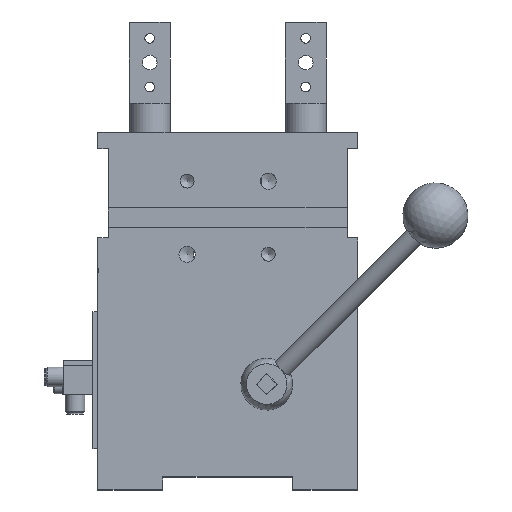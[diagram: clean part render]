
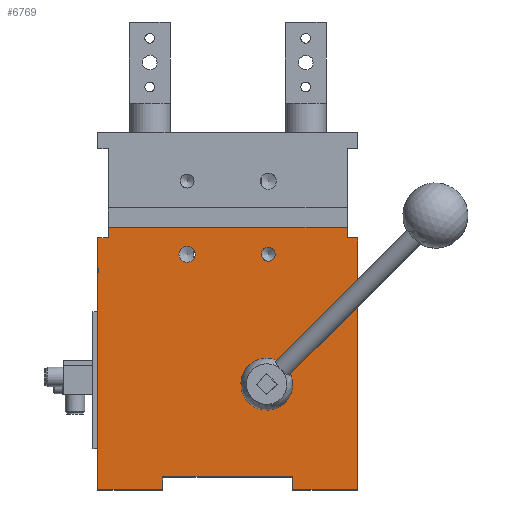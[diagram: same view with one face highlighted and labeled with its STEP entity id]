
A CAD part, top view. The second image highlights one B-rep face of the part: STEP entity #6769.
In plain terms, the highlighted planar face has unit normal (0, 0, 1).
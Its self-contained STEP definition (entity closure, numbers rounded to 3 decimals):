
#260=LINE('',#11653,#647);
#283=LINE('',#11698,#670);
#284=LINE('',#11700,#671);
#285=LINE('',#11702,#672);
#286=LINE('',#11704,#673);
#287=LINE('',#11706,#674);
#288=LINE('',#11708,#675);
#289=LINE('',#11710,#676);
#290=LINE('',#11712,#677);
#291=LINE('',#11714,#678);
#292=LINE('',#11716,#679);
#293=LINE('',#11717,#680);
#647=VECTOR('',#9049,147.);
#670=VECTOR('',#9088,6.5);
#671=VECTOR('',#9089,6.5);
#672=VECTOR('',#9090,155.);
#673=VECTOR('',#9091,40.);
#674=VECTOR('',#9092,8.);
#675=VECTOR('',#9093,80.);
#676=VECTOR('',#9094,8.);
#677=VECTOR('',#9095,40.);
#678=VECTOR('',#9096,155.);
#679=VECTOR('',#9097,6.5);
#680=VECTOR('',#9098,6.5);
#1158=PLANE('',#7514);
#1447=FACE_BOUND('',#2542,.T.);
#1448=FACE_BOUND('',#2543,.T.);
#1449=FACE_BOUND('',#2544,.T.);
#1878=FACE_OUTER_BOUND('',#2541,.T.);
#2541=EDGE_LOOP('',(#5619,#5620,#5621,#5622,#5623,#5624,#5625,#5626,#5627,
#5628,#5629,#5630));
#2542=EDGE_LOOP('',(#5631));
#2543=EDGE_LOOP('',(#5632));
#2544=EDGE_LOOP('',(#5633));
#3072=CIRCLE('',#7440,4.25);
#3073=CIRCLE('',#7442,5.);
#3074=CIRCLE('',#7444,6.);
#3561=VERTEX_POINT('',#11491);
#3562=VERTEX_POINT('',#11504);
#3563=VERTEX_POINT('',#11507);
#3603=VERTEX_POINT('',#11649);
#3605=VERTEX_POINT('',#11652);
#3619=VERTEX_POINT('',#11697);
#3620=VERTEX_POINT('',#11699);
#3621=VERTEX_POINT('',#11701);
#3622=VERTEX_POINT('',#11703);
#3623=VERTEX_POINT('',#11705);
#3624=VERTEX_POINT('',#11707);
#3625=VERTEX_POINT('',#11709);
#3626=VERTEX_POINT('',#11711);
#3627=VERTEX_POINT('',#11713);
#3628=VERTEX_POINT('',#11715);
#4293=EDGE_CURVE('',#3561,#3561,#3072,.T.);
#4295=EDGE_CURVE('',#3562,#3562,#3073,.T.);
#4296=EDGE_CURVE('',#3563,#3563,#3074,.T.);
#4344=EDGE_CURVE('',#3603,#3605,#260,.F.);
#4367=EDGE_CURVE('',#3603,#3619,#283,.F.);
#4368=EDGE_CURVE('',#3620,#3619,#284,.T.);
#4369=EDGE_CURVE('',#3620,#3621,#285,.F.);
#4370=EDGE_CURVE('',#3621,#3622,#286,.T.);
#4371=EDGE_CURVE('',#3623,#3622,#287,.F.);
#4372=EDGE_CURVE('',#3623,#3624,#288,.T.);
#4373=EDGE_CURVE('',#3624,#3625,#289,.F.);
#4374=EDGE_CURVE('',#3625,#3626,#290,.T.);
#4375=EDGE_CURVE('',#3627,#3626,#291,.F.);
#4376=EDGE_CURVE('',#3627,#3628,#292,.F.);
#4377=EDGE_CURVE('',#3605,#3628,#293,.F.);
#5619=ORIENTED_EDGE('',*,*,#4344,.F.);
#5620=ORIENTED_EDGE('',*,*,#4367,.T.);
#5621=ORIENTED_EDGE('',*,*,#4368,.F.);
#5622=ORIENTED_EDGE('',*,*,#4369,.T.);
#5623=ORIENTED_EDGE('',*,*,#4370,.T.);
#5624=ORIENTED_EDGE('',*,*,#4371,.F.);
#5625=ORIENTED_EDGE('',*,*,#4372,.T.);
#5626=ORIENTED_EDGE('',*,*,#4373,.T.);
#5627=ORIENTED_EDGE('',*,*,#4374,.T.);
#5628=ORIENTED_EDGE('',*,*,#4375,.F.);
#5629=ORIENTED_EDGE('',*,*,#4376,.T.);
#5630=ORIENTED_EDGE('',*,*,#4377,.F.);
#5631=ORIENTED_EDGE('',*,*,#4296,.T.);
#5632=ORIENTED_EDGE('',*,*,#4295,.T.);
#5633=ORIENTED_EDGE('',*,*,#4293,.T.);
#6769=ADVANCED_FACE('',(#1878,#1447,#1448,#1449),#1158,.F.);
#7440=AXIS2_PLACEMENT_3D('',#11492,#8899,#8900);
#7442=AXIS2_PLACEMENT_3D('',#11505,#8903,#8904);
#7444=AXIS2_PLACEMENT_3D('',#11508,#8907,#8908);
#7514=AXIS2_PLACEMENT_3D('',#11696,#9086,#9087);
#8899=DIRECTION('center_axis',(0.,0.,-1.));
#8900=DIRECTION('ref_axis',(1.,0.,0.));
#8903=DIRECTION('center_axis',(0.,0.,-1.));
#8904=DIRECTION('ref_axis',(1.,0.,0.));
#8907=DIRECTION('center_axis',(0.,0.,-1.));
#8908=DIRECTION('ref_axis',(1.,0.,0.));
#9049=DIRECTION('',(-1.,0.,0.));
#9086=DIRECTION('center_axis',(0.,0.,-1.));
#9087=DIRECTION('ref_axis',(0.,1.,0.));
#9088=DIRECTION('',(0.,1.,0.));
#9089=DIRECTION('',(1.,0.,0.));
#9090=DIRECTION('',(0.,1.,0.));
#9091=DIRECTION('',(1.,0.,0.));
#9092=DIRECTION('',(0.,1.,0.));
#9093=DIRECTION('',(1.,0.,0.));
#9094=DIRECTION('',(0.,1.,0.));
#9095=DIRECTION('',(1.,0.,0.));
#9096=DIRECTION('',(0.,1.,0.));
#9097=DIRECTION('',(1.,0.,0.));
#9098=DIRECTION('',(0.,1.,0.));
#11491=CARTESIAN_POINT('',(-8.23,-11.107,32.));
#11492=CARTESIAN_POINT('Origin',(-8.23,-6.857,32.));
#11504=CARTESIAN_POINT('',(-58.23,-11.857,32.));
#11505=CARTESIAN_POINT('Origin',(-58.23,-6.857,32.));
#11507=CARTESIAN_POINT('',(-13.473,-82.614,32.));
#11508=CARTESIAN_POINT('Origin',(-9.23,-86.857,32.));
#11649=CARTESIAN_POINT('',(-106.73,9.643,32.));
#11652=CARTESIAN_POINT('',(40.27,9.643,32.));
#11653=CARTESIAN_POINT('',(-33.23,9.643,32.));
#11696=CARTESIAN_POINT('Origin',(-113.23,-151.857,32.));
#11697=CARTESIAN_POINT('',(-106.73,3.143,32.));
#11698=CARTESIAN_POINT('',(-106.73,6.393,32.));
#11699=CARTESIAN_POINT('',(-113.23,3.143,32.));
#11700=CARTESIAN_POINT('',(-109.98,3.143,32.));
#11701=CARTESIAN_POINT('',(-113.23,-151.857,32.));
#11702=CARTESIAN_POINT('',(-113.23,-74.357,32.));
#11703=CARTESIAN_POINT('',(-73.23,-151.857,32.));
#11704=CARTESIAN_POINT('',(-93.23,-151.857,32.));
#11705=CARTESIAN_POINT('',(-73.23,-143.857,32.));
#11706=CARTESIAN_POINT('',(-73.23,-147.857,32.));
#11707=CARTESIAN_POINT('',(6.77,-143.857,32.));
#11708=CARTESIAN_POINT('',(-33.23,-143.857,32.));
#11709=CARTESIAN_POINT('',(6.77,-151.857,32.));
#11710=CARTESIAN_POINT('',(6.77,-147.857,32.));
#11711=CARTESIAN_POINT('',(46.77,-151.857,32.));
#11712=CARTESIAN_POINT('',(26.77,-151.857,32.));
#11713=CARTESIAN_POINT('',(46.77,3.143,32.));
#11714=CARTESIAN_POINT('',(46.77,-74.357,32.));
#11715=CARTESIAN_POINT('',(40.27,3.143,32.));
#11716=CARTESIAN_POINT('',(43.52,3.143,32.));
#11717=CARTESIAN_POINT('',(40.27,6.393,32.));
